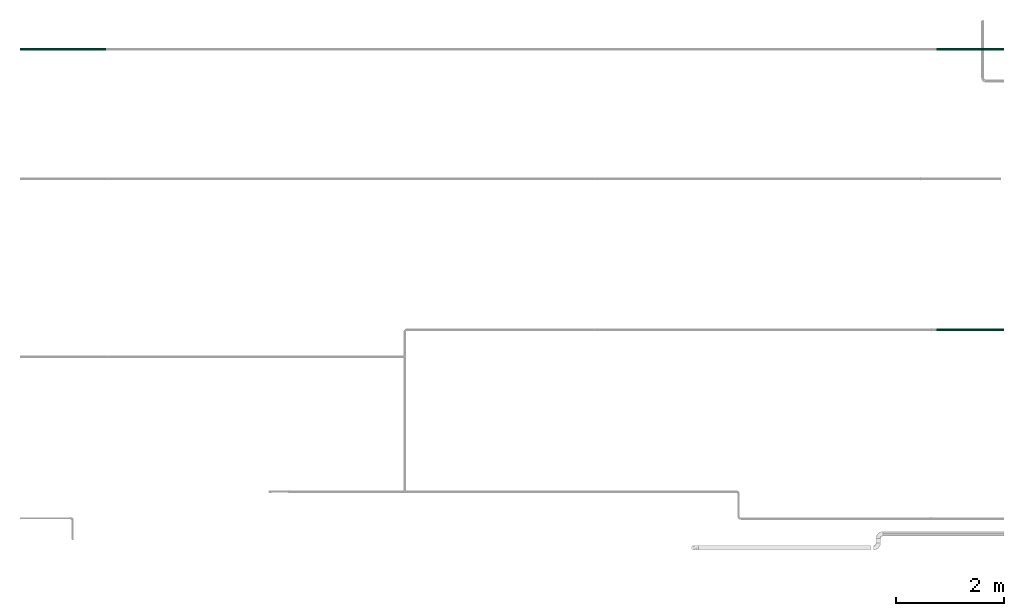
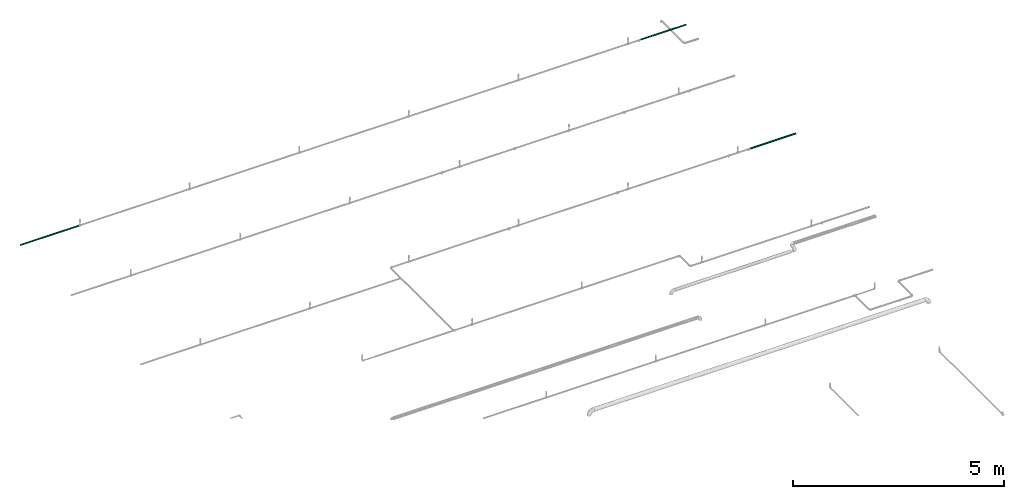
# One storey, part 92 of 94: 3 flow segments.
"""IFC2X3 building model written with IfcOpenShell, lengths in millimetres."""

from ifc_helpers import new_model, entity, si_unit, converted_unit, derived_unit, direction, frame, place, context, subcontext, project, spatial, faceted_brep, type_object, element, save


model = new_model("IFC2X3")

# Units and contexts
model_context = context("Model", 3, precision=0.01, world=frame((0.0, 4.29681676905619e-09, 0.0)), true_north=direction((4.01073788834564e-13, 1.0)))
plan_context = context("Plan", 3, precision=0.01, world=frame((0.0, 4.29681676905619e-09, 0.0)), true_north=direction((4.01073788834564e-13, 1.0)))
body_context = subcontext(model_context, "Body", "Model", "MODEL_VIEW")
ifc_project = project(units=[converted_unit("PLANEANGLEUNIT", "DEGREE", entity("IfcPositiveLengthMeasure", 0.0174532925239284), si_unit("PLANEANGLEUNIT", "RADIAN"), dimensions=[0, 0, 0, 0, 0, 0, 0]), si_unit("AREAUNIT", "SQUARE_METRE"), si_unit("LENGTHUNIT", "METRE", prefix="MILLI"), si_unit("MASSUNIT", "GRAM", prefix="KILO"), si_unit("POWERUNIT", "WATT"), si_unit("PRESSUREUNIT", "PASCAL"), si_unit("FORCEUNIT", "NEWTON", prefix="KILO"), si_unit("ELECTRICCURRENTUNIT", "AMPERE"), si_unit("THERMODYNAMICTEMPERATUREUNIT", "DEGREE_CELSIUS"), si_unit("TIMEUNIT", "SECOND"), si_unit("VOLUMEUNIT", "CUBIC_METRE"), derived_unit("LINEARVELOCITYUNIT", [(si_unit("LENGTHUNIT", "METRE"), 1), (si_unit("TIMEUNIT", "SECOND"), -1)]), derived_unit("VOLUMETRICFLOWRATEUNIT", [(si_unit("VOLUMEUNIT", "CUBIC_METRE"), 1), (si_unit("TIMEUNIT", "SECOND"), -1)]), derived_unit("THERMALTRANSMITTANCEUNIT", [(si_unit("POWERUNIT", "WATT"), 1), (si_unit("THERMODYNAMICTEMPERATUREUNIT", "KELVIN"), -1), (si_unit("AREAUNIT", "SQUARE_METRE"), -1)])], contexts=[model_context, plan_context])

# Site, building, storey
site_placement = place(None, frame((0.0, -4.29681676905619e-09, 0.0), z_axis=(0.0, 0.0, 1.0), x_axis=(1.0, 0.0, 0.0)))
site = spatial("IfcSite", under=ifc_project, at=site_placement, CompositionType="ELEMENT")
building_placement = place(site_placement, frame((0.0, 4.29681676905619e-09, 0.0), z_axis=(0.0, 0.0, 1.0), x_axis=(1.0, 0.0, 0.0)))
building = spatial("IfcBuilding", under=site, at=building_placement, Name="mc-building", CompositionType="ELEMENT")
storey_placement = place(building_placement, frame((0.0, 0.0, 200300.0), z_axis=(0.0, 0.0, 1.0), x_axis=(1.0, 0.0, 0.0)))
storey = spatial("IfcBuildingStorey", under=building, at=storey_placement, Name="Nivå C", CompositionType="ELEMENT", Elevation=200300.0)

# Flow segments
pipe_segment_type = type_object("IfcPipeSegmentType", Name="Stålrør normaltykke", PredefinedType="RIGIDSEGMENT")
flow_segment_1_placement = place(storey_placement, frame((515459.32395, 418699.60987, 2850.0), z_axis=(0.0, 0.0, 1.0), x_axis=(-1.0, 0.0, 0.0)))
element("IfcFlowSegment", 1, at=flow_segment_1_placement, inside=storey, type_object=pipe_segment_type, Name="Stålrør normaltykke", context=body_context, shape_type="Brep", body=[
    faceted_brep([(1596.82394999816, 19.2, 0.0), (1596.82394999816, 18.9083088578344, -3.33404501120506), (0.0, 18.9083088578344, -3.33404501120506), (0.0, 19.2, 0.0), (1596.82394999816, 18.0420983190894, -6.56678675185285), (0.0, 18.0420983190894, -6.56678675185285), (1596.82394999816, 16.6276877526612, -9.60000000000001), (0.0, 16.6276877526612, -9.60000000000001), (1596.82394999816, 14.7080533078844, -12.3415221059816), (0.0, 14.7080533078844, -12.3415221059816), (1596.82394999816, 12.3415221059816, -14.7080533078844), (0.0, 12.3415221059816, -14.7080533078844), (1596.82394999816, 9.6, -16.6276877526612), (0.0, 9.6, -16.6276877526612), (1596.82394999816, 6.56678675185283, -18.0420983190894), (0.0, 6.56678675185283, -18.0420983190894), (1596.82394999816, 3.33404501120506, -18.9083088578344), (0.0, 3.33404501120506, -18.9083088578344), (1596.82394999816, -3.52698278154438e-15, -19.2), (0.0, -3.52698278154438e-15, -19.2), (1596.82394999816, -3.33404501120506, -18.9083088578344), (0.0, -3.33404501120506, -18.9083088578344), (1596.82394999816, -6.56678675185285, -18.0420983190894), (0.0, -6.56678675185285, -18.0420983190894), (1596.82394999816, -9.60000000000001, -16.6276877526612), (0.0, -9.60000000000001, -16.6276877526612), (1596.82394999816, -12.3415221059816, -14.7080533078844), (0.0, -12.3415221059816, -14.7080533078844), (1596.82394999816, -14.7080533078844, -12.3415221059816), (0.0, -14.7080533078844, -12.3415221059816), (1596.82394999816, -16.6276877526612, -9.59999999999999), (0.0, -16.6276877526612, -9.59999999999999), (1596.82394999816, -18.0420983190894, -6.56678675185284), (0.0, -18.0420983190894, -6.56678675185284), (1596.82394999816, -18.9083088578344, -3.33404501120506), (0.0, -18.9083088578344, -3.33404501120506), (1596.82394999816, -19.2, 2.35132185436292e-15), (0.0, -19.2, 2.35132185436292e-15), (1596.82394999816, -18.9083088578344, 3.33404501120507), (0.0, -18.9083088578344, 3.33404501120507), (1596.82394999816, -18.0420983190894, 6.56678675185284), (0.0, -18.0420983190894, 6.56678675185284), (1596.82394999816, -16.6276877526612, 9.6), (0.0, -16.6276877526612, 9.6), (1596.82394999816, -14.7080533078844, 12.3415221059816), (0.0, -14.7080533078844, 12.3415221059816), (1596.82394999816, -12.3415221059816, 14.7080533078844), (0.0, -12.3415221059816, 14.7080533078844), (1596.82394999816, -9.6, 16.6276877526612), (0.0, -9.6, 16.6276877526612), (1596.82394999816, -6.56678675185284, 18.0420983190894), (0.0, -6.56678675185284, 18.0420983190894), (1596.82394999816, -3.33404501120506, 18.9083088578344), (0.0, -3.33404501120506, 18.9083088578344), (1596.82394999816, 1.17566092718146e-15, 19.2), (0.0, 1.17566092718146e-15, 19.2), (1596.82394999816, 3.33404501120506, 18.9083088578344), (0.0, 3.33404501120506, 18.9083088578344), (1596.82394999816, 6.56678675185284, 18.0420983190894), (0.0, 6.56678675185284, 18.0420983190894), (1596.82394999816, 9.6, 16.6276877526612), (0.0, 9.6, 16.6276877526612), (1596.82394999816, 12.3415221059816, 14.7080533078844), (0.0, 12.3415221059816, 14.7080533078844), (1596.82394999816, 14.7080533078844, 12.3415221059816), (0.0, 14.7080533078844, 12.3415221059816), (1596.82394999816, 16.6276877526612, 9.6), (0.0, 16.6276877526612, 9.6), (1596.82394999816, 18.0420983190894, 6.56678675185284), (0.0, 18.0420983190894, 6.56678675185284), (1596.82394999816, 18.9083088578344, 3.33404501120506), (0.0, 18.9083088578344, 3.33404501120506), (1596.82394999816, 20.8779243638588, -3.68134136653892), (1596.82394999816, 21.2, 0.0), (0.0, 21.2, 0.0), (0.0, 20.8779243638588, -3.68134136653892), (1596.82394999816, 20.8779243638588, 3.68134136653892), (0.0, 20.8779243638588, 3.68134136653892), (1596.82394999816, 19.9214835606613, 7.25082703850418), (0.0, 19.9214835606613, 7.25082703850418), (1596.82394999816, 18.3597385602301, 10.6), (0.0, 18.3597385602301, 10.6), (1596.82394999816, 16.2401421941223, 13.6270973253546), (0.0, 16.2401421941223, 13.6270973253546), (1596.82394999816, 13.6270973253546, 16.2401421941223), (0.0, 13.6270973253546, 16.2401421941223), (1596.82394999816, 10.6, 18.3597385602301), (0.0, 10.6, 18.3597385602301), (1596.82394999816, 7.25082703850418, 19.9214835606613), (0.0, 7.25082703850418, 19.9214835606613), (1596.82394999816, 3.68134136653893, 20.8779243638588), (0.0, 3.68134136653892, 20.8779243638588), (1596.82394999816, 1.29812560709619e-15, 21.2), (0.0, 1.29812560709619e-15, 21.2), (1596.82394999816, -3.68134136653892, 20.8779243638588), (0.0, -3.68134136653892, 20.8779243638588), (1596.82394999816, -7.25082703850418, 19.9214835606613), (0.0, -7.25082703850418, 19.9214835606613), (1596.82394999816, -10.6, 18.3597385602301), (0.0, -10.6, 18.3597385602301), (1596.82394999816, -13.6270973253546, 16.2401421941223), (0.0, -13.6270973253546, 16.2401421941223), (1596.82394999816, -16.2401421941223, 13.6270973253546), (0.0, -16.2401421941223, 13.6270973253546), (1596.82394999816, -18.3597385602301, 10.6), (0.0, -18.3597385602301, 10.6), (1596.82394999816, -19.9214835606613, 7.25082703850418), (0.0, -19.9214835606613, 7.25082703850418), (1596.82394999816, -20.8779243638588, 3.68134136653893), (0.0, -20.8779243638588, 3.68134136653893), (1596.82394999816, -21.2, 2.59625121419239e-15), (0.0, -21.2, 2.59625121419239e-15), (1596.82394999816, -20.8779243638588, -3.68134136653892), (0.0, -20.8779243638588, -3.68134136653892), (1596.82394999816, -19.9214835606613, -7.25082703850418), (0.0, -19.9214835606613, -7.25082703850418), (1596.82394999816, -18.3597385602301, -10.6), (0.0, -18.3597385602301, -10.6), (1596.82394999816, -16.2401421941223, -13.6270973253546), (0.0, -16.2401421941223, -13.6270973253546), (1596.82394999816, -13.6270973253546, -16.2401421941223), (0.0, -13.6270973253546, -16.2401421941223), (1596.82394999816, -10.6, -18.3597385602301), (0.0, -10.6, -18.3597385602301), (1596.82394999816, -7.25082703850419, -19.9214835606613), (0.0, -7.25082703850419, -19.9214835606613), (1596.82394999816, -3.68134136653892, -20.8779243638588), (0.0, -3.68134136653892, -20.8779243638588), (1596.82394999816, -3.89437682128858e-15, -21.2), (0.0, -3.89437682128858e-15, -21.2), (1596.82394999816, 3.68134136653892, -20.8779243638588), (0.0, 3.68134136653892, -20.8779243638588), (1596.82394999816, 7.25082703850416, -19.9214835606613), (0.0, 7.25082703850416, -19.9214835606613), (1596.82394999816, 10.6, -18.3597385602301), (0.0, 10.6, -18.3597385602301), (1596.82394999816, 13.6270973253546, -16.2401421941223), (0.0, 13.6270973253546, -16.2401421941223), (1596.82394999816, 16.2401421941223, -13.6270973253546), (0.0, 16.2401421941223, -13.6270973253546), (1596.82394999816, 18.3597385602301, -10.6), (0.0, 18.3597385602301, -10.6), (1596.82394999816, 19.9214835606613, -7.25082703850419), (0.0, 19.9214835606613, -7.25082703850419)], [[[0, 1, 2, 3]], [[1, 4, 5, 2]], [[4, 6, 7, 5]], [[6, 8, 9, 7]], [[8, 10, 11, 9]], [[10, 12, 13, 11]], [[12, 14, 15, 13]], [[14, 16, 17, 15]], [[16, 18, 19, 17]], [[18, 20, 21, 19]], [[20, 22, 23, 21]], [[22, 24, 25, 23]], [[24, 26, 27, 25]], [[26, 28, 29, 27]], [[28, 30, 31, 29]], [[30, 32, 33, 31]], [[32, 34, 35, 33]], [[34, 36, 37, 35]], [[36, 38, 39, 37]], [[38, 40, 41, 39]], [[40, 42, 43, 41]], [[42, 44, 45, 43]], [[44, 46, 47, 45]], [[46, 48, 49, 47]], [[48, 50, 51, 49]], [[50, 52, 53, 51]], [[52, 54, 55, 53]], [[54, 56, 57, 55]], [[56, 58, 59, 57]], [[58, 60, 61, 59]], [[60, 62, 63, 61]], [[62, 64, 65, 63]], [[64, 66, 67, 65]], [[66, 68, 69, 67]], [[68, 70, 71, 69]], [[70, 0, 3, 71]], [[72, 73, 74, 75]], [[73, 76, 77, 74]], [[76, 78, 79, 77]], [[78, 80, 81, 79]], [[80, 82, 83, 81]], [[82, 84, 85, 83]], [[84, 86, 87, 85]], [[86, 88, 89, 87]], [[88, 90, 91, 89]], [[90, 92, 93, 91]], [[92, 94, 95, 93]], [[94, 96, 97, 95]], [[96, 98, 99, 97]], [[98, 100, 101, 99]], [[100, 102, 103, 101]], [[102, 104, 105, 103]], [[104, 106, 107, 105]], [[106, 108, 109, 107]], [[108, 110, 111, 109]], [[110, 112, 113, 111]], [[112, 114, 115, 113]], [[114, 116, 117, 115]], [[116, 118, 119, 117]], [[118, 120, 121, 119]], [[120, 122, 123, 121]], [[122, 124, 125, 123]], [[124, 126, 127, 125]], [[126, 128, 129, 127]], [[128, 130, 131, 129]], [[130, 132, 133, 131]], [[132, 134, 135, 133]], [[134, 136, 137, 135]], [[136, 138, 139, 137]], [[138, 140, 141, 139]], [[140, 142, 143, 141]], [[142, 72, 75, 143]], [[75, 74, 77, 79, 81, 83, 85, 87, 89, 91, 93, 95, 97, 99, 101, 103, 105, 107, 109, 111, 113, 115, 117, 119, 121, 123, 125, 127, 129, 131, 133, 135, 137, 139, 141, 143], [3, 2, 5, 7, 9, 11, 13, 15, 17, 19, 21, 23, 25, 27, 29, 31, 33, 35, 37, 39, 41, 43, 45, 47, 49, 51, 53, 55, 57, 59, 61, 63, 65, 67, 69, 71]], [[142, 140, 138, 136, 134, 132, 130, 128, 126, 124, 122, 120, 118, 116, 114, 112, 110, 108, 106, 104, 102, 100, 98, 96, 94, 92, 90, 88, 86, 84, 82, 80, 78, 76, 73, 72], [70, 68, 66, 64, 62, 60, 58, 56, 54, 52, 50, 48, 46, 44, 42, 40, 38, 36, 34, 32, 30, 28, 26, 24, 22, 20, 18, 16, 14, 12, 10, 8, 6, 4, 1, 0]]], orient=[[False], [False], [False], [False], [False], [False], [False], [False], [False], [False], [False], [False], [False], [False], [False], [False], [False], [False], [False], [False], [False], [False], [False], [False], [False], [False], [False], [False], [False], [False], [False], [False], [False], [False], [False], [False], [False], [False], [False], [False], [False], [False], [False], [False], [False], [False], [False], [False], [False], [False], [False], [False], [False], [False], [False], [False], [False], [False], [False], [False], [False], [False], [False], [False], [False], [False], [False], [False], [False], [False], [False], [False], [False, False], [False, False]]),
])
flow_segment_2_placement = place(storey_placement, frame((533474.32395, 418699.60987, 2850.0), z_axis=(0.0, 0.0, 1.0), x_axis=(-1.0, 0.0, 0.0)))
element("IfcFlowSegment", 2, at=flow_segment_2_placement, inside=storey, type_object=pipe_segment_type, Name="Stålrør normaltykke", context=body_context, shape_type="Brep", body=[
    faceted_brep([(1379.32394999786, 18.9083088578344, -3.33404501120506), (1379.32394999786, 19.2, 0.0), (2631.0, 19.2, 0.0), (2631.0, 18.9083088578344, -3.33404501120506), (1379.32394999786, 18.0420983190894, -6.56678675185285), (2631.0, 18.0420983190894, -6.56678675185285), (1379.32394999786, 16.6276877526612, -9.60000000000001), (2631.0, 16.6276877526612, -9.60000000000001), (1379.32394999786, 14.7080533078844, -12.3415221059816), (2631.0, 14.7080533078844, -12.3415221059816), (1379.32394999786, 12.3415221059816, -14.7080533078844), (2631.0, 12.3415221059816, -14.7080533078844), (1379.32394999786, 9.6, -16.6276877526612), (2631.0, 9.6, -16.6276877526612), (1379.32394999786, 6.56678675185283, -18.0420983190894), (2631.0, 6.56678675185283, -18.0420983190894), (1379.32394999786, 3.33404501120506, -18.9083088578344), (2631.0, 3.33404501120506, -18.9083088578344), (1379.32394999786, -3.52698278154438e-15, -19.2), (2631.0, -3.52698278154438e-15, -19.2), (1379.32394999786, -3.33404501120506, -18.9083088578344), (2631.0, -3.33404501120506, -18.9083088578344), (1379.32394999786, -6.56678675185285, -18.0420983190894), (2631.0, -6.56678675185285, -18.0420983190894), (1379.32394999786, -9.60000000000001, -16.6276877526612), (2631.0, -9.60000000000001, -16.6276877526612), (1379.32394999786, -12.3415221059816, -14.7080533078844), (2631.0, -12.3415221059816, -14.7080533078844), (1379.32394999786, -14.7080533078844, -12.3415221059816), (2631.0, -14.7080533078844, -12.3415221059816), (1379.32394999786, -16.6276877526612, -9.59999999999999), (2631.0, -16.6276877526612, -9.59999999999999), (1379.32394999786, -18.0420983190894, -6.56678675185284), (2631.0, -18.0420983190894, -6.56678675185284), (1379.32394999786, -18.9083088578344, -3.33404501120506), (2631.0, -18.9083088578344, -3.33404501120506), (1379.32394999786, -19.2, 2.35132185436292e-15), (2631.0, -19.2, 2.35132185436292e-15), (1379.32394999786, -18.9083088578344, 3.33404501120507), (2631.0, -18.9083088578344, 3.33404501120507), (1379.32394999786, -18.0420983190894, 6.56678675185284), (2631.0, -18.0420983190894, 6.56678675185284), (1379.32394999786, -16.6276877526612, 9.6), (2631.0, -16.6276877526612, 9.6), (1379.32394999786, -14.7080533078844, 12.3415221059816), (2631.0, -14.7080533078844, 12.3415221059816), (1379.32394999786, -12.3415221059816, 14.7080533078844), (2631.0, -12.3415221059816, 14.7080533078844), (1379.32394999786, -9.6, 16.6276877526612), (2631.0, -9.6, 16.6276877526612), (1379.32394999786, -6.56678675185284, 18.0420983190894), (2631.0, -6.56678675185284, 18.0420983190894), (1379.32394999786, -3.33404501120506, 18.9083088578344), (2631.0, -3.33404501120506, 18.9083088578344), (1379.32394999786, 1.17566092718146e-15, 19.2), (2631.0, 1.17566092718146e-15, 19.2), (1379.32394999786, 3.33404501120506, 18.9083088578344), (2631.0, 3.33404501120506, 18.9083088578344), (1379.32394999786, 6.56678675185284, 18.0420983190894), (2631.0, 6.56678675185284, 18.0420983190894), (1379.32394999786, 9.6, 16.6276877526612), (2631.0, 9.6, 16.6276877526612), (1379.32394999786, 12.3415221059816, 14.7080533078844), (2631.0, 12.3415221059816, 14.7080533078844), (1379.32394999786, 14.7080533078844, 12.3415221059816), (2631.0, 14.7080533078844, 12.3415221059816), (1379.32394999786, 16.6276877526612, 9.6), (2631.0, 16.6276877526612, 9.6), (1379.32394999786, 18.0420983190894, 6.56678675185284), (2631.0, 18.0420983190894, 6.56678675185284), (1379.32394999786, 18.9083088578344, 3.33404501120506), (2631.0, 18.9083088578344, 3.33404501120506), (1379.32394999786, 21.2, 0.0), (1379.32394999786, 20.8779243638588, -3.68134136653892), (2631.0, 20.8779243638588, -3.68134136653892), (2631.0, 21.2, 0.0), (1379.32394999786, 20.8779243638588, 3.68134136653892), (2631.0, 20.8779243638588, 3.68134136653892), (1379.32394999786, 19.9214835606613, 7.25082703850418), (2631.0, 19.9214835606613, 7.25082703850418), (1379.32394999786, 18.3597385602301, 10.6), (2631.0, 18.3597385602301, 10.6), (1379.32394999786, 16.2401421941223, 13.6270973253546), (2631.0, 16.2401421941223, 13.6270973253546), (1379.32394999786, 13.6270973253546, 16.2401421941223), (2631.0, 13.6270973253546, 16.2401421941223), (1379.32394999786, 10.6, 18.3597385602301), (2631.0, 10.6, 18.3597385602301), (1379.32394999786, 7.25082703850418, 19.9214835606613), (2631.0, 7.25082703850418, 19.9214835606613), (1379.32394999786, 3.68134136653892, 20.8779243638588), (2631.0, 3.68134136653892, 20.8779243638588), (1379.32394999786, 1.29812560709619e-15, 21.2), (2631.0, 1.29812560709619e-15, 21.2), (1379.32394999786, -3.68134136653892, 20.8779243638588), (2631.0, -3.68134136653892, 20.8779243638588), (1379.32394999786, -7.25082703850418, 19.9214835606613), (2631.0, -7.25082703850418, 19.9214835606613), (1379.32394999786, -10.6, 18.3597385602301), (2631.0, -10.6, 18.3597385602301), (1379.32394999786, -13.6270973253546, 16.2401421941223), (2631.0, -13.6270973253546, 16.2401421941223), (1379.32394999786, -16.2401421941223, 13.6270973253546), (2631.0, -16.2401421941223, 13.6270973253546), (1379.32394999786, -18.3597385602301, 10.6), (2631.0, -18.3597385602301, 10.6), (1379.32394999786, -19.9214835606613, 7.25082703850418), (2631.0, -19.9214835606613, 7.25082703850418), (1379.32394999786, -20.8779243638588, 3.68134136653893), (2631.0, -20.8779243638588, 3.68134136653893), (1379.32394999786, -21.2, 2.59625121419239e-15), (2631.0, -21.2, 2.59625121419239e-15), (1379.32394999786, -20.8779243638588, -3.68134136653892), (2631.0, -20.8779243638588, -3.68134136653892), (1379.32394999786, -19.9214835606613, -7.25082703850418), (2631.0, -19.9214835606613, -7.25082703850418), (1379.32394999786, -18.3597385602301, -10.6), (2631.0, -18.3597385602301, -10.6), (1379.32394999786, -16.2401421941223, -13.6270973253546), (2631.0, -16.2401421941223, -13.6270973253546), (1379.32394999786, -13.6270973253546, -16.2401421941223), (2631.0, -13.6270973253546, -16.2401421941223), (1379.32394999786, -10.6, -18.3597385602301), (2631.0, -10.6, -18.3597385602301), (1379.32394999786, -7.25082703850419, -19.9214835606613), (2631.0, -7.25082703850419, -19.9214835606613), (1379.32394999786, -3.68134136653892, -20.8779243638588), (2631.0, -3.68134136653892, -20.8779243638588), (1379.32394999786, -3.89437682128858e-15, -21.2), (2631.0, -3.89437682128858e-15, -21.2), (1379.32394999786, 3.68134136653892, -20.8779243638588), (2631.0, 3.68134136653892, -20.8779243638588), (1379.32394999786, 7.25082703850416, -19.9214835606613), (2631.0, 7.25082703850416, -19.9214835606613), (1379.32394999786, 10.6, -18.3597385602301), (2631.0, 10.6, -18.3597385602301), (1379.32394999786, 13.6270973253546, -16.2401421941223), (2631.0, 13.6270973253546, -16.2401421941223), (1379.32394999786, 16.2401421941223, -13.6270973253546), (2631.0, 16.2401421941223, -13.6270973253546), (1379.32394999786, 18.3597385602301, -10.6), (2631.0, 18.3597385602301, -10.6), (1379.32394999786, 19.9214835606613, -7.25082703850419), (2631.0, 19.9214835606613, -7.25082703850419)], [[[0, 1, 2, 3]], [[4, 0, 3, 5]], [[6, 4, 5, 7]], [[8, 6, 7, 9]], [[10, 8, 9, 11]], [[12, 10, 11, 13]], [[14, 12, 13, 15]], [[16, 14, 15, 17]], [[18, 16, 17, 19]], [[20, 18, 19, 21]], [[22, 20, 21, 23]], [[24, 22, 23, 25]], [[26, 24, 25, 27]], [[28, 26, 27, 29]], [[30, 28, 29, 31]], [[32, 30, 31, 33]], [[34, 32, 33, 35]], [[36, 34, 35, 37]], [[38, 36, 37, 39]], [[40, 38, 39, 41]], [[42, 40, 41, 43]], [[44, 42, 43, 45]], [[46, 44, 45, 47]], [[48, 46, 47, 49]], [[50, 48, 49, 51]], [[52, 50, 51, 53]], [[54, 52, 53, 55]], [[56, 54, 55, 57]], [[58, 56, 57, 59]], [[60, 58, 59, 61]], [[62, 60, 61, 63]], [[64, 62, 63, 65]], [[66, 64, 65, 67]], [[68, 66, 67, 69]], [[70, 68, 69, 71]], [[1, 70, 71, 2]], [[72, 73, 74, 75]], [[76, 72, 75, 77]], [[78, 76, 77, 79]], [[80, 78, 79, 81]], [[82, 80, 81, 83]], [[84, 82, 83, 85]], [[86, 84, 85, 87]], [[88, 86, 87, 89]], [[90, 88, 89, 91]], [[92, 90, 91, 93]], [[94, 92, 93, 95]], [[96, 94, 95, 97]], [[98, 96, 97, 99]], [[100, 98, 99, 101]], [[102, 100, 101, 103]], [[104, 102, 103, 105]], [[106, 104, 105, 107]], [[108, 106, 107, 109]], [[110, 108, 109, 111]], [[112, 110, 111, 113]], [[114, 112, 113, 115]], [[116, 114, 115, 117]], [[118, 116, 117, 119]], [[120, 118, 119, 121]], [[122, 120, 121, 123]], [[124, 122, 123, 125]], [[126, 124, 125, 127]], [[128, 126, 127, 129]], [[130, 128, 129, 131]], [[132, 130, 131, 133]], [[134, 132, 133, 135]], [[136, 134, 135, 137]], [[138, 136, 137, 139]], [[140, 138, 139, 141]], [[142, 140, 141, 143]], [[73, 142, 143, 74]], [[75, 74, 143, 141, 139, 137, 135, 133, 131, 129, 127, 125, 123, 121, 119, 117, 115, 113, 111, 109, 107, 105, 103, 101, 99, 97, 95, 93, 91, 89, 87, 85, 83, 81, 79, 77], [2, 71, 69, 67, 65, 63, 61, 59, 57, 55, 53, 51, 49, 47, 45, 43, 41, 39, 37, 35, 33, 31, 29, 27, 25, 23, 21, 19, 17, 15, 13, 11, 9, 7, 5, 3]], [[76, 78, 80, 82, 84, 86, 88, 90, 92, 94, 96, 98, 100, 102, 104, 106, 108, 110, 112, 114, 116, 118, 120, 122, 124, 126, 128, 130, 132, 134, 136, 138, 140, 142, 73, 72], [4, 6, 8, 10, 12, 14, 16, 18, 20, 22, 24, 26, 28, 30, 32, 34, 36, 38, 40, 42, 44, 46, 48, 50, 52, 54, 56, 58, 60, 62, 64, 66, 68, 70, 1, 0]]], orient=[[False], [False], [False], [False], [False], [False], [False], [False], [False], [False], [False], [False], [False], [False], [False], [False], [False], [False], [False], [False], [False], [False], [False], [False], [False], [False], [False], [False], [False], [False], [False], [False], [False], [False], [False], [False], [False], [False], [False], [False], [False], [False], [False], [False], [False], [False], [False], [False], [False], [False], [False], [False], [False], [False], [False], [False], [False], [False], [False], [False], [False], [False], [False], [False], [False], [False], [False], [False], [False], [False], [False], [False], [False, False], [False, False]]),
])
flow_segment_3_placement = place(storey_placement, frame((530843.33912, 413500.1625, 2850.0), z_axis=(0.0, 0.0, 1.0), x_axis=(1.0, 0.0, 0.0)))
element("IfcFlowSegment", 3, at=flow_segment_3_placement, inside=storey, type_object=pipe_segment_type, Name="Stålrør normaltykke", context=body_context, shape_type="Brep", body=[
    faceted_brep([(1251.66088000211, 22.1, 0.0), (1251.66088000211, 21.7642513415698, -3.83762472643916), (0.0, 21.7642513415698, -3.83762472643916), (0.0, 22.1, 0.0), (1251.66088000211, 20.7672069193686, -7.55864516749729), (0.0, 20.7672069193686, -7.5586451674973), (1251.66088000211, 19.1391614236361, -11.05), (0.0, 19.1391614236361, -11.05), (1251.66088000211, 16.9295821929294, -14.2056061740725), (0.0, 16.9295821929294, -14.2056061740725), (1251.66088000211, 14.2056061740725, -16.9295821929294), (0.0, 14.2056061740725, -16.9295821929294), (1251.66088000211, 11.05, -19.1391614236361), (0.0, 11.05, -19.1391614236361), (1251.66088000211, 7.55864516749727, -20.7672069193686), (0.0, 7.55864516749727, -20.7672069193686), (1251.66088000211, 3.83762472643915, -21.7642513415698), (0.0, 3.83762472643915, -21.7642513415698), (1251.66088000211, -4.05970413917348e-15, -22.1), (0.0, -4.05970413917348e-15, -22.1), (1251.66088000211, -3.83762472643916, -21.7642513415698), (0.0, -3.83762472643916, -21.7642513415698), (1251.66088000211, -7.55864516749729, -20.7672069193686), (0.0, -7.55864516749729, -20.7672069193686), (1251.66088000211, -11.05, -19.1391614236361), (0.0, -11.05, -19.1391614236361), (1251.66088000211, -14.2056061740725, -16.9295821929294), (0.0, -14.2056061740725, -16.9295821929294), (1251.66088000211, -16.9295821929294, -14.2056061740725), (0.0, -16.9295821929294, -14.2056061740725), (1251.66088000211, -19.1391614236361, -11.05), (0.0, -19.1391614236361, -11.05), (1251.66088000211, -20.7672069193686, -7.55864516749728), (0.0, -20.7672069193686, -7.55864516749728), (1251.66088000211, -21.7642513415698, -3.83762472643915), (0.0, -21.7642513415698, -3.83762472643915), (1251.66088000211, -22.1, 2.70646942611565e-15), (0.0, -22.1, 2.70646942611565e-15), (1251.66088000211, -21.7642513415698, 3.83762472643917), (0.0, -21.7642513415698, 3.83762472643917), (1251.66088000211, -20.7672069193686, 7.55864516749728), (0.0, -20.7672069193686, 7.55864516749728), (1251.66088000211, -19.1391614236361, 11.05), (0.0, -19.1391614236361, 11.05), (1251.66088000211, -16.9295821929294, 14.2056061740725), (0.0, -16.9295821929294, 14.2056061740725), (1251.66088000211, -14.2056061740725, 16.9295821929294), (0.0, -14.2056061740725, 16.9295821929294), (1251.66088000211, -11.05, 19.1391614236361), (0.0, -11.05, 19.1391614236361), (1251.66088000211, -7.55864516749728, 20.7672069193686), (0.0, -7.55864516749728, 20.7672069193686), (1251.66088000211, -3.83762472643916, 21.7642513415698), (0.0, -3.83762472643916, 21.7642513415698), (1251.66088000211, 1.35323471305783e-15, 22.1), (0.0, 1.35323471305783e-15, 22.1), (1251.66088000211, 3.83762472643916, 21.7642513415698), (0.0, 3.83762472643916, 21.7642513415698), (1251.66088000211, 7.55864516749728, 20.7672069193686), (0.0, 7.55864516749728, 20.7672069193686), (1251.66088000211, 11.05, 19.1391614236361), (0.0, 11.05, 19.1391614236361), (1251.66088000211, 14.2056061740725, 16.9295821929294), (0.0, 14.2056061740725, 16.9295821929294), (1251.66088000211, 16.9295821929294, 14.2056061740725), (0.0, 16.9295821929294, 14.2056061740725), (1251.66088000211, 19.1391614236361, 11.05), (0.0, 19.1391614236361, 11.05), (1251.66088000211, 20.7672069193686, 7.55864516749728), (0.0, 20.7672069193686, 7.55864516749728), (1251.66088000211, 21.7642513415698, 3.83762472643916), (0.0, 21.7642513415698, 3.83762472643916), (1251.66088000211, 23.7338668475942, -4.18492108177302), (1251.66088000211, 24.1, 0.0), (0.0, 24.1, 0.0), (0.0, 23.7338668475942, -4.18492108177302), (1251.66088000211, 23.7338668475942, 4.18492108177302), (0.0, 23.7338668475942, 4.18492108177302), (1251.66088000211, 22.6465921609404, 8.24268545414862), (0.0, 22.6465921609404, 8.24268545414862), (1251.66088000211, 20.871212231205, 12.05), (0.0, 20.871212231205, 12.05), (1251.66088000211, 18.4616710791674, 15.4911813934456), (0.0, 18.4616710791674, 15.4911813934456), (1251.66088000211, 15.4911813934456, 18.4616710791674), (0.0, 15.4911813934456, 18.4616710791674), (1251.66088000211, 12.05, 20.871212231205), (0.0, 12.05, 20.871212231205), (1251.66088000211, 8.24268545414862, 22.6465921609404), (0.0, 8.24268545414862, 22.6465921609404), (1251.66088000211, 4.18492108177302, 23.7338668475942), (0.0, 4.18492108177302, 23.7338668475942), (1251.66088000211, 1.47569939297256e-15, 24.1), (0.0, 1.47569939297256e-15, 24.1), (1251.66088000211, -4.18492108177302, 23.7338668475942), (0.0, -4.18492108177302, 23.7338668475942), (1251.66088000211, -8.24268545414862, 22.6465921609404), (0.0, -8.24268545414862, 22.6465921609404), (1251.66088000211, -12.05, 20.871212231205), (0.0, -12.05, 20.871212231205), (1251.66088000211, -15.4911813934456, 18.4616710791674), (0.0, -15.4911813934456, 18.4616710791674), (1251.66088000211, -18.4616710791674, 15.4911813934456), (0.0, -18.4616710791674, 15.4911813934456), (1251.66088000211, -20.871212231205, 12.05), (0.0, -20.871212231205, 12.05), (1251.66088000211, -22.6465921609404, 8.24268545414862), (0.0, -22.6465921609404, 8.24268545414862), (1251.66088000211, -23.7338668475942, 4.18492108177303), (0.0, -23.7338668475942, 4.18492108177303), (1251.66088000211, -24.1, 2.95139878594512e-15), (0.0, -24.1, 2.95139878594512e-15), (1251.66088000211, -23.7338668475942, -4.18492108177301), (0.0, -23.7338668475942, -4.18492108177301), (1251.66088000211, -22.6465921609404, -8.24268545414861), (0.0, -22.6465921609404, -8.24268545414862), (1251.66088000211, -20.871212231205, -12.05), (0.0, -20.871212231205, -12.05), (1251.66088000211, -18.4616710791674, -15.4911813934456), (0.0, -18.4616710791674, -15.4911813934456), (1251.66088000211, -15.4911813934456, -18.4616710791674), (0.0, -15.4911813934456, -18.4616710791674), (1251.66088000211, -12.05, -20.871212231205), (0.0, -12.05, -20.871212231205), (1251.66088000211, -8.24268545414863, -22.6465921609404), (0.0, -8.24268545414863, -22.6465921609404), (1251.66088000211, -4.18492108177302, -23.7338668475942), (0.0, -4.18492108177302, -23.7338668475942), (1251.66088000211, -4.42709817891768e-15, -24.1), (0.0, -4.42709817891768e-15, -24.1), (1251.66088000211, 4.18492108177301, -23.7338668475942), (0.0, 4.18492108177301, -23.7338668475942), (1251.66088000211, 8.2426854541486, -22.6465921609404), (0.0, 8.2426854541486, -22.6465921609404), (1251.66088000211, 12.05, -20.871212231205), (0.0, 12.05, -20.871212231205), (1251.66088000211, 15.4911813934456, -18.4616710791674), (0.0, 15.4911813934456, -18.4616710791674), (1251.66088000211, 18.4616710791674, -15.4911813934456), (0.0, 18.4616710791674, -15.4911813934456), (1251.66088000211, 20.871212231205, -12.05), (0.0, 20.871212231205, -12.05), (1251.66088000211, 22.6465921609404, -8.24268545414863), (0.0, 22.6465921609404, -8.24268545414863)], [[[0, 1, 2, 3]], [[1, 4, 5, 2]], [[4, 6, 7, 5]], [[6, 8, 9, 7]], [[8, 10, 11, 9]], [[10, 12, 13, 11]], [[12, 14, 15, 13]], [[14, 16, 17, 15]], [[16, 18, 19, 17]], [[18, 20, 21, 19]], [[20, 22, 23, 21]], [[22, 24, 25, 23]], [[24, 26, 27, 25]], [[26, 28, 29, 27]], [[28, 30, 31, 29]], [[30, 32, 33, 31]], [[32, 34, 35, 33]], [[34, 36, 37, 35]], [[36, 38, 39, 37]], [[38, 40, 41, 39]], [[40, 42, 43, 41]], [[42, 44, 45, 43]], [[44, 46, 47, 45]], [[46, 48, 49, 47]], [[48, 50, 51, 49]], [[50, 52, 53, 51]], [[52, 54, 55, 53]], [[54, 56, 57, 55]], [[56, 58, 59, 57]], [[58, 60, 61, 59]], [[60, 62, 63, 61]], [[62, 64, 65, 63]], [[64, 66, 67, 65]], [[66, 68, 69, 67]], [[68, 70, 71, 69]], [[70, 0, 3, 71]], [[72, 73, 74, 75]], [[73, 76, 77, 74]], [[76, 78, 79, 77]], [[78, 80, 81, 79]], [[80, 82, 83, 81]], [[82, 84, 85, 83]], [[84, 86, 87, 85]], [[86, 88, 89, 87]], [[88, 90, 91, 89]], [[90, 92, 93, 91]], [[92, 94, 95, 93]], [[94, 96, 97, 95]], [[96, 98, 99, 97]], [[98, 100, 101, 99]], [[100, 102, 103, 101]], [[102, 104, 105, 103]], [[104, 106, 107, 105]], [[106, 108, 109, 107]], [[108, 110, 111, 109]], [[110, 112, 113, 111]], [[112, 114, 115, 113]], [[114, 116, 117, 115]], [[116, 118, 119, 117]], [[118, 120, 121, 119]], [[120, 122, 123, 121]], [[122, 124, 125, 123]], [[124, 126, 127, 125]], [[126, 128, 129, 127]], [[128, 130, 131, 129]], [[130, 132, 133, 131]], [[132, 134, 135, 133]], [[134, 136, 137, 135]], [[136, 138, 139, 137]], [[138, 140, 141, 139]], [[140, 142, 143, 141]], [[142, 72, 75, 143]], [[75, 74, 77, 79, 81, 83, 85, 87, 89, 91, 93, 95, 97, 99, 101, 103, 105, 107, 109, 111, 113, 115, 117, 119, 121, 123, 125, 127, 129, 131, 133, 135, 137, 139, 141, 143], [3, 2, 5, 7, 9, 11, 13, 15, 17, 19, 21, 23, 25, 27, 29, 31, 33, 35, 37, 39, 41, 43, 45, 47, 49, 51, 53, 55, 57, 59, 61, 63, 65, 67, 69, 71]], [[142, 140, 138, 136, 134, 132, 130, 128, 126, 124, 122, 120, 118, 116, 114, 112, 110, 108, 106, 104, 102, 100, 98, 96, 94, 92, 90, 88, 86, 84, 82, 80, 78, 76, 73, 72], [70, 68, 66, 64, 62, 60, 58, 56, 54, 52, 50, 48, 46, 44, 42, 40, 38, 36, 34, 32, 30, 28, 26, 24, 22, 20, 18, 16, 14, 12, 10, 8, 6, 4, 1, 0]]], orient=[[False], [False], [False], [False], [False], [False], [False], [False], [False], [False], [False], [False], [False], [False], [False], [False], [False], [False], [False], [False], [False], [False], [False], [False], [False], [False], [False], [False], [False], [False], [False], [False], [False], [False], [False], [False], [False], [False], [False], [False], [False], [False], [False], [False], [False], [False], [False], [False], [False], [False], [False], [False], [False], [False], [False], [False], [False], [False], [False], [False], [False], [False], [False], [False], [False], [False], [False], [False], [False], [False], [False], [False], [False, False], [False, False]]),
])

save(model, "model.ifc")
